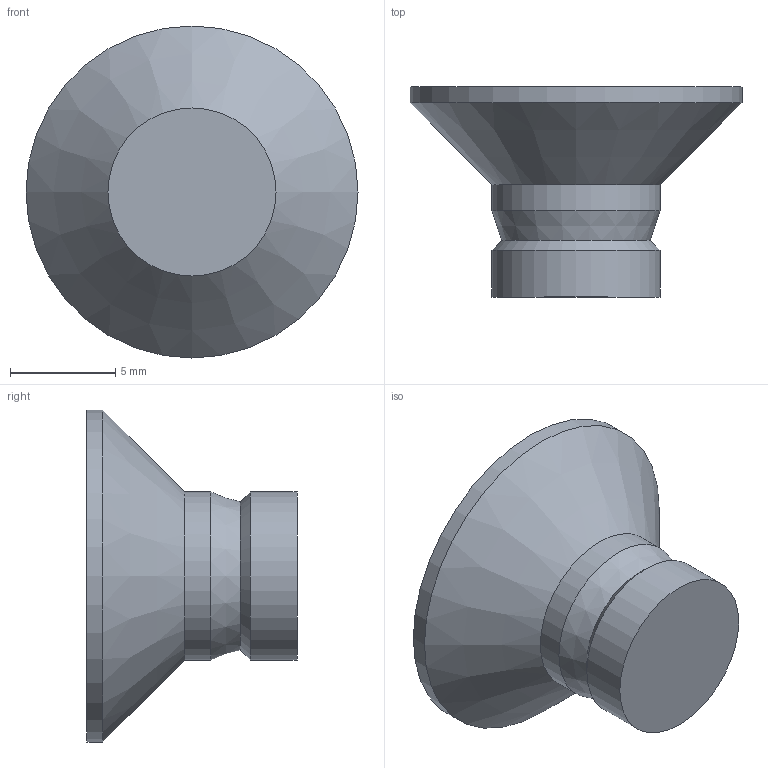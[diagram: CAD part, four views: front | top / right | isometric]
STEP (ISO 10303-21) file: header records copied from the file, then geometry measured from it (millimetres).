
FILE_DESCRIPTION(/* description */ (''),/* implementation_level */ '2;1');
FILE_NAME(/* name */ 'C:\Users\unitec\Documents\Inventor\HP\ボルト\JIS B 1111 十字穴付き皿小ねじ\IPT\CHWCSS-M8\CHWCSS-M8-10.stp',/* time_stamp */ '2016-12-24T16:30:33+09:00',/* author */ ('unitec'),/* organization */ (''),/* preprocessor_version */ 'ST-DEVELOPER v15.2',/* originating_system */ 'Autodesk Inventor 2014',/* authorisation */ '');
FILE_SCHEMA (('AUTOMOTIVE_DESIGN { 1 0 10303 214 3 1 1 }'));
Length unit declared in the file: millimetre
Products named in the file (1): CHWCSS-M8-10
Bounding box: 15.8 x 10 x 15.8 mm (x, y, z)
Volume: 795.3 mm3; surface area: 679.9 mm2
Topology: 1 solids, 1 shells, 33 faces, 77 edges, 43 vertices
Faces by surface type: plane 23, bspline 4, cylinder 3, cone 3
Full cylindrical faces by diameter (mm): 8 x2, 15.8 x1
Entity records: 1057 total; most frequent: CARTESIAN_POINT 400, ORIENTED_EDGE 134, DIRECTION 106, EDGE_CURVE 67, VERTEX_POINT 43, EDGE_LOOP 40, AXIS2_PLACEMENT_3D 37, ADVANCED_FACE 33
